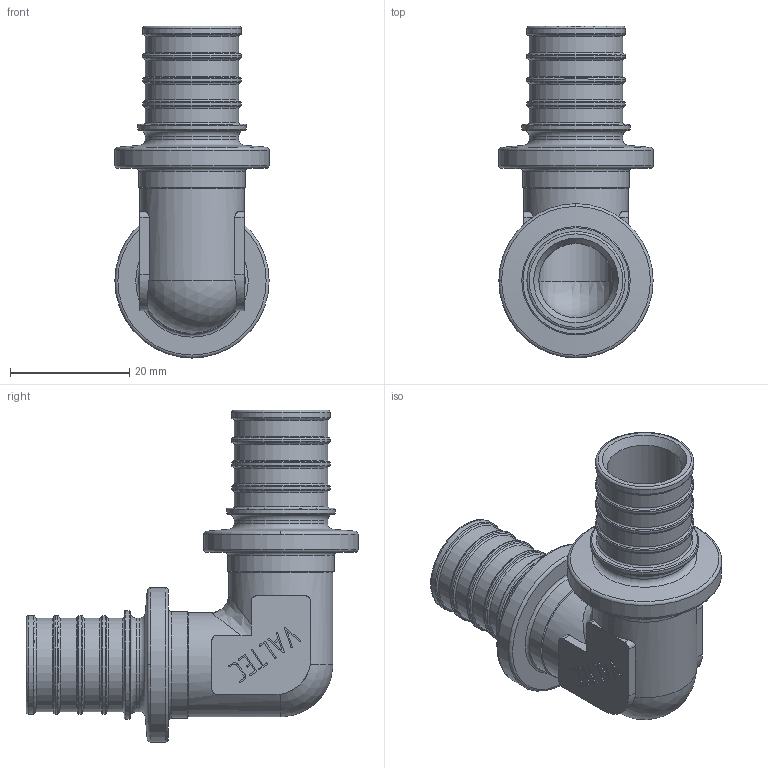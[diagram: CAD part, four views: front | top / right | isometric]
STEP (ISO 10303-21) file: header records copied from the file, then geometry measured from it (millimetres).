
FILE_DESCRIPTION(('STEP AP203'), '1');
FILE_NAME('ÂÐ.752211.002 - VTm.451.G.002020 - Ôèò. àêñ. óãîë.', '', ('UNSPECIFIED'), ('UNSPECIFIED'), 'C3D Converter', 'C3D Toolkit', '');
FILE_SCHEMA(('CONFIG_CONTROL_DESIGN'));
Length unit declared in the file: millimetre
Products named in the file (1): ВР.752211.002
Bounding box: 25.9 x 55.75 x 55.75 mm (x, y, z)
Volume: 10762.1 mm3; surface area: 9666 mm2
Topology: 1 solids, 1 shells, 359 faces, 940 edges, 601 vertices
Faces by surface type: extrusion 142, plane 120, torus 50, cylinder 38, cone 6, sphere 2, bspline 1
Full cylindrical faces by diameter (mm): 12.5 x2, 15.7 x10, 16.5 x8, 17.5 x2, 17.9 x2, 18.2 x2, 25.9 x2
Entity records: 14139 total; most frequent: CARTESIAN_POINT 3227, ORIENTED_EDGE 1724, DIRECTION 1260, EDGE_CURVE 862, VERTEX_POINT 601, VECTOR 570, EDGE_LOOP 457, B_SPLINE_CURVE_WITH_KNOTS 446
